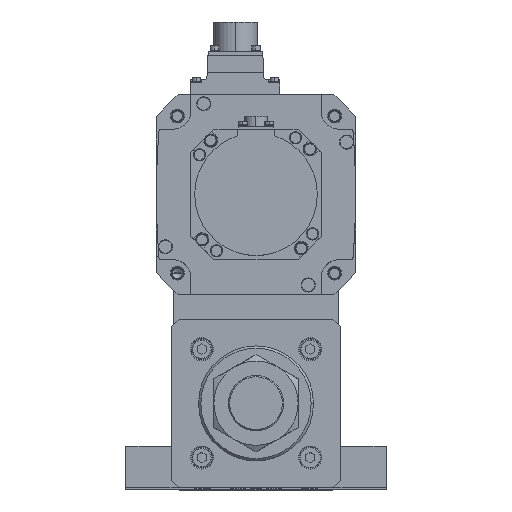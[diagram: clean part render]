
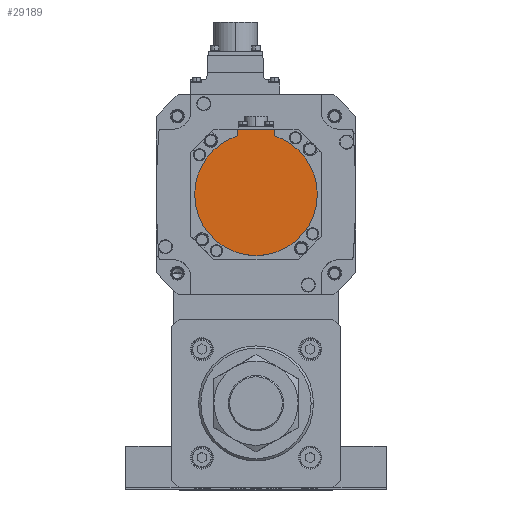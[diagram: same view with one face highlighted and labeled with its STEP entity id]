
A CAD part, top view. The second image highlights one B-rep face of the part: STEP entity #29189.
In plain terms, the highlighted planar face has unit normal (0, 0, 1) as drawn and (0, 0, -1) by its records, which use the part's own axes.
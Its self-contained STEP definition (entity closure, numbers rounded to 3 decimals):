
#218 = DIRECTION ( 'NONE',  ( 0., 0., 1. ) ) ;
#236 = CARTESIAN_POINT ( 'NONE',  ( -12., -38.158, -132.5 ) ) ;
#858 = VECTOR ( 'NONE', #9674, 1000. ) ;
#1711 = EDGE_CURVE ( 'NONE', #2570, #33549, #17723, .T. ) ;
#2570 = VERTEX_POINT ( 'NONE', #10492 ) ;
#3358 = EDGE_CURVE ( 'NONE', #33549, #11992, #25591, .T. ) ;
#4416 = ORIENTED_EDGE ( 'NONE', *, *, #15951, .T. ) ;
#5631 = CARTESIAN_POINT ( 'NONE',  ( 0., -42.5, -132.5 ) ) ;
#5986 = ORIENTED_EDGE ( 'NONE', *, *, #11541, .F. ) ;
#6061 = CARTESIAN_POINT ( 'NONE',  ( 12., -38.158, -132.5 ) ) ;
#6864 = CARTESIAN_POINT ( 'NONE',  ( 0., 0., -132.5 ) ) ;
#6870 = ORIENTED_EDGE ( 'NONE', *, *, #17274, .T. ) ;
#7080 = CARTESIAN_POINT ( 'NONE',  ( -12., -42.5, -132.5 ) ) ;
#7860 = CARTESIAN_POINT ( 'NONE',  ( 0., 0., -132.5 ) ) ;
#9674 = DIRECTION ( 'NONE',  ( 0., 1., 0. ) ) ;
#10270 = AXIS2_PLACEMENT_3D ( 'NONE', #29042, #18329, #11133 ) ;
#10492 = CARTESIAN_POINT ( 'NONE',  ( 12., -42.5, -132.5 ) ) ;
#10555 = VECTOR ( 'NONE', #17228, 1000. ) ;
#10778 = CIRCLE ( 'NONE', #23301, 40. ) ;
#10827 = VERTEX_POINT ( 'NONE', #7080 ) ;
#11133 = DIRECTION ( 'NONE',  ( 1., 0., 0. ) ) ;
#11392 = DIRECTION ( 'NONE',  ( 0., 0., 1. ) ) ;
#11541 = EDGE_CURVE ( 'NONE', #11992, #31752, #10778, .T. ) ;
#11992 = VERTEX_POINT ( 'NONE', #28463 ) ;
#12546 = DIRECTION ( 'NONE',  ( 0., 0., 1. ) ) ;
#15137 = DIRECTION ( 'NONE',  ( 1., 0., 0. ) ) ;
#15951 = EDGE_CURVE ( 'NONE', #2570, #10827, #33849, .T. ) ;
#16139 = DIRECTION ( 'NONE',  ( -1., 0., 0. ) ) ;
#16209 = DIRECTION ( 'NONE',  ( 1., 0., 0. ) ) ;
#17228 = DIRECTION ( 'NONE',  ( 0., 1., 0. ) ) ;
#17274 = EDGE_CURVE ( 'NONE', #10827, #18617, #24436, .T. ) ;
#17603 = EDGE_LOOP ( 'NONE', ( #6870, #29681, #5986, #26536, #31520, #4416 ) ) ;
#17723 = LINE ( 'NONE', #31273, #10555 ) ;
#18329 = DIRECTION ( 'NONE',  ( 0., 0., 1. ) ) ;
#18617 = VERTEX_POINT ( 'NONE', #236 ) ;
#21255 = PLANE ( 'NONE',  #10270 ) ;
#23301 = AXIS2_PLACEMENT_3D ( 'NONE', #7860, #218, #27184 ) ;
#24436 = LINE ( 'NONE', #25942, #858 ) ;
#24804 = CARTESIAN_POINT ( 'NONE',  ( 0., 0., -132.5 ) ) ;
#25591 = CIRCLE ( 'NONE', #27098, 40. ) ;
#25942 = CARTESIAN_POINT ( 'NONE',  ( -12., -40.329, -132.5 ) ) ;
#26536 = ORIENTED_EDGE ( 'NONE', *, *, #3358, .F. ) ;
#27098 = AXIS2_PLACEMENT_3D ( 'NONE', #24804, #11392, #16209 ) ;
#27184 = DIRECTION ( 'NONE',  ( 1., 0., 0. ) ) ;
#28463 = CARTESIAN_POINT ( 'NONE',  ( 40., 0., -132.5 ) ) ;
#28775 = VECTOR ( 'NONE', #16139, 1000. ) ;
#29042 = CARTESIAN_POINT ( 'NONE',  ( 0., -1.249, -132.5 ) ) ;
#29189 = ADVANCED_FACE ( 'NONE', ( #30841 ), #21255, .F. ) ;
#29681 = ORIENTED_EDGE ( 'NONE', *, *, #31911, .F. ) ;
#30235 = CARTESIAN_POINT ( 'NONE',  ( -40., 0., -132.5 ) ) ;
#30841 = FACE_OUTER_BOUND ( 'NONE', #17603, .T. ) ;
#31168 = CIRCLE ( 'NONE', #33150, 40. ) ;
#31273 = CARTESIAN_POINT ( 'NONE',  ( 12., -1.249, -132.5 ) ) ;
#31520 = ORIENTED_EDGE ( 'NONE', *, *, #1711, .F. ) ;
#31752 = VERTEX_POINT ( 'NONE', #30235 ) ;
#31911 = EDGE_CURVE ( 'NONE', #31752, #18617, #31168, .T. ) ;
#33150 = AXIS2_PLACEMENT_3D ( 'NONE', #6864, #12546, #15137 ) ;
#33549 = VERTEX_POINT ( 'NONE', #6061 ) ;
#33849 = LINE ( 'NONE', #5631, #28775 ) ;
